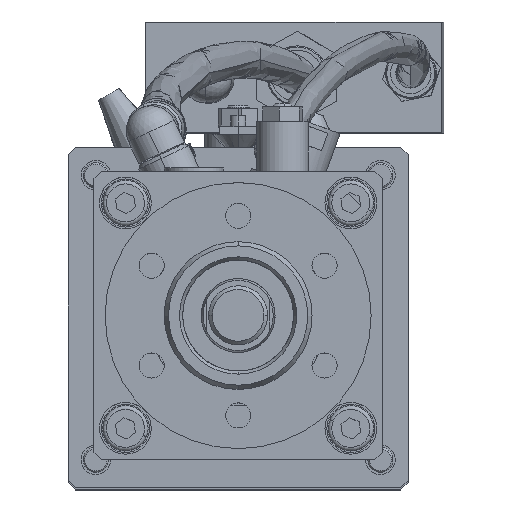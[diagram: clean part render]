
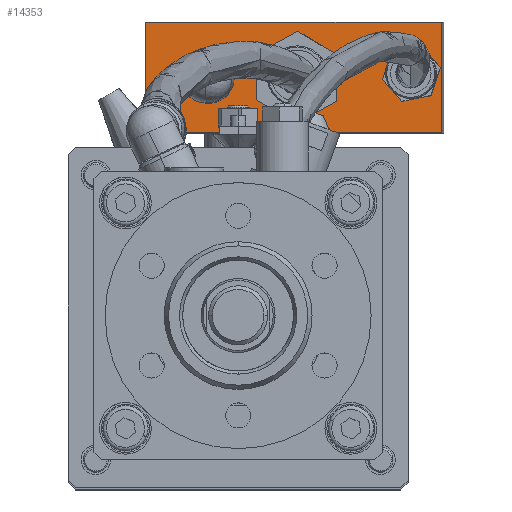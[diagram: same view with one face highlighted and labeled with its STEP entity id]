
A CAD part, top view. The second image highlights one B-rep face of the part: STEP entity #14353.
In plain terms, the highlighted planar face has unit normal (-0.016, 0, 1).
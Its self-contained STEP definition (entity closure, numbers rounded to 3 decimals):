
#42 = EDGE_LOOP ( 'NONE', ( #11251, #520, #3345, #14879 ) ) ;
#140 = VERTEX_POINT ( 'NONE', #7018 ) ;
#243 = CARTESIAN_POINT ( 'NONE',  ( 39.112, 65.027, -115.617 ) ) ;
#314 = CARTESIAN_POINT ( 'NONE',  ( 54.955, 80.5, -115.364 ) ) ;
#358 = LINE ( 'NONE', #5654, #12584 ) ;
#520 = ORIENTED_EDGE ( 'NONE', *, *, #8743, .F. ) ;
#693 = VERTEX_POINT ( 'NONE', #1087 ) ;
#792 = CARTESIAN_POINT ( 'NONE',  ( 49.522, 74.171, -115.451 ) ) ;
#897 = DIRECTION ( 'NONE',  ( -0.018, -1., 0. ) ) ;
#1087 = CARTESIAN_POINT ( 'NONE',  ( 52.235, 60.583, -115.408 ) ) ;
#1105 = EDGE_CURVE ( 'NONE', #5956, #140, #7410, .T. ) ;
#1342 = ORIENTED_EDGE ( 'NONE', *, *, #1105, .F. ) ;
#1462 = ORIENTED_EDGE ( 'NONE', *, *, #14413, .F. ) ;
#1501 = LINE ( 'NONE', #9416, #4575 ) ;
#1548 = LINE ( 'NONE', #243, #3285 ) ;
#1663 = VERTEX_POINT ( 'NONE', #314 ) ;
#1766 = CARTESIAN_POINT ( 'NONE',  ( -8.037, 72.5, -116.37 ) ) ;
#1768 = LINE ( 'NONE', #7234, #5620 ) ;
#1894 = CARTESIAN_POINT ( 'NONE',  ( 26.893, 71.557, -115.812 ) ) ;
#2004 = DIRECTION ( 'NONE',  ( 0.981, 0.196, 0.016 ) ) ;
#2078 = DIRECTION ( 'NONE',  ( 0.018, 1., 0. ) ) ;
#2085 = CARTESIAN_POINT ( 'NONE',  ( 54.955, 80.5, -115.364 ) ) ;
#2153 = DIRECTION ( 'NONE',  ( 0., -1., 0. ) ) ;
#2195 = EDGE_CURVE ( 'NONE', #11071, #1663, #1768, .T. ) ;
#2457 = EDGE_CURVE ( 'NONE', #3306, #12536, #358, .T. ) ;
#2692 = VERTEX_POINT ( 'NONE', #14602 ) ;
#2751 = DIRECTION ( 'NONE',  ( -0.875, -0.485, -0.014 ) ) ;
#2871 = LINE ( 'NONE', #6602, #14894 ) ;
#2895 = LINE ( 'NONE', #8200, #11502 ) ;
#3285 = VECTOR ( 'NONE', #4057, 1000. ) ;
#3306 = VERTEX_POINT ( 'NONE', #12825 ) ;
#3345 = ORIENTED_EDGE ( 'NONE', *, *, #2195, .F. ) ;
#3428 = CARTESIAN_POINT ( 'NONE',  ( 54.955, 50.5, -115.364 ) ) ;
#3452 = EDGE_CURVE ( 'NONE', #140, #3306, #2895, .T. ) ;
#3620 = PLANE ( 'NONE',  #7212 ) ;
#3648 = DIRECTION ( 'NONE',  ( -0.016, 0., 1. ) ) ;
#3800 = VERTEX_POINT ( 'NONE', #792 ) ;
#3829 = CARTESIAN_POINT ( 'NONE',  ( 44.391, 59.016, -115.533 ) ) ;
#3849 = EDGE_CURVE ( 'NONE', #16549, #14902, #15405, .T. ) ;
#3891 = DIRECTION ( 'NONE',  ( 0., -1., 0. ) ) ;
#4057 = DIRECTION ( 'NONE',  ( 0.66, -0.751, 0.011 ) ) ;
#4115 = VERTEX_POINT ( 'NONE', #15467 ) ;
#4140 = FACE_OUTER_BOUND ( 'NONE', #42, .T. ) ;
#4322 = VECTOR ( 'NONE', #10713, 1000. ) ;
#4575 = VECTOR ( 'NONE', #12028, 1000. ) ;
#5275 = CARTESIAN_POINT ( 'NONE',  ( 41.678, 72.604, -115.576 ) ) ;
#5279 = LINE ( 'NONE', #15658, #11109 ) ;
#5355 = EDGE_CURVE ( 'NONE', #12536, #6696, #5977, .T. ) ;
#5449 = FACE_BOUND ( 'NONE', #11680, .T. ) ;
#5581 = CARTESIAN_POINT ( 'NONE',  ( 52.235, 60.583, -115.408 ) ) ;
#5620 = VECTOR ( 'NONE', #6015, 1000. ) ;
#5653 = ORIENTED_EDGE ( 'NONE', *, *, #5355, .F. ) ;
#5654 = CARTESIAN_POINT ( 'NONE',  ( 15.739, 53.002, -115.99 ) ) ;
#5663 = AXIS2_PLACEMENT_3D ( 'NONE', #15574, #3648, #17030 ) ;
#5762 = VECTOR ( 'NONE', #2751, 1000. ) ;
#5897 = CARTESIAN_POINT ( 'NONE',  ( 26.672, 59.059, -115.816 ) ) ;
#5956 = VERTEX_POINT ( 'NONE', #9272 ) ;
#5977 = LINE ( 'NONE', #5897, #6564 ) ;
#6015 = DIRECTION ( 'NONE',  ( 1., 0., 0.016 ) ) ;
#6226 = EDGE_CURVE ( 'NONE', #4115, #15374, #16722, .T. ) ;
#6246 = DIRECTION ( 'NONE',  ( 0., -1., 0. ) ) ;
#6296 = ORIENTED_EDGE ( 'NONE', *, *, #12254, .F. ) ;
#6564 = VECTOR ( 'NONE', #2078, 1000. ) ;
#6602 = CARTESIAN_POINT ( 'NONE',  ( 54.801, 68.16, -115.367 ) ) ;
#6667 = CIRCLE ( 'NONE', #15588, 7. ) ;
#6696 = VERTEX_POINT ( 'NONE', #15417 ) ;
#7018 = CARTESIAN_POINT ( 'NONE',  ( 5.027, 59.443, -116.161 ) ) ;
#7212 = AXIS2_PLACEMENT_3D ( 'NONE', #7282, #8683, #2153 ) ;
#7234 = CARTESIAN_POINT ( 'NONE',  ( 54.955, 80.5, -115.364 ) ) ;
#7282 = CARTESIAN_POINT ( 'NONE',  ( 54.955, 80.5, -115.364 ) ) ;
#7410 = LINE ( 'NONE', #11587, #13106 ) ;
#7735 = LINE ( 'NONE', #11743, #7766 ) ;
#7766 = VECTOR ( 'NONE', #3891, 1000. ) ;
#7808 = CARTESIAN_POINT ( 'NONE',  ( -25.034, 80.5, -116.641 ) ) ;
#8135 = EDGE_CURVE ( 'NONE', #10983, #2692, #1501, .T. ) ;
#8200 = CARTESIAN_POINT ( 'NONE',  ( 5.027, 59.443, -116.161 ) ) ;
#8399 = LINE ( 'NONE', #9699, #5762 ) ;
#8683 = DIRECTION ( 'NONE',  ( 0.016, 0., -1. ) ) ;
#8700 = CARTESIAN_POINT ( 'NONE',  ( 44.391, 59.016, -115.533 ) ) ;
#8743 = EDGE_CURVE ( 'NONE', #1663, #15374, #8957, .T. ) ;
#8834 = EDGE_LOOP ( 'NONE', ( #14035, #11346 ) ) ;
#8957 = LINE ( 'NONE', #2085, #17085 ) ;
#9089 = EDGE_CURVE ( 'NONE', #693, #10083, #13415, .T. ) ;
#9262 = VERTEX_POINT ( 'NONE', #3829 ) ;
#9272 = CARTESIAN_POINT ( 'NONE',  ( 5.249, 71.941, -116.158 ) ) ;
#9386 = EDGE_CURVE ( 'NONE', #10083, #3800, #2871, .T. ) ;
#9416 = CARTESIAN_POINT ( 'NONE',  ( 41.678, 72.604, -115.576 ) ) ;
#9448 = VECTOR ( 'NONE', #15385, 1000. ) ;
#9467 = FACE_BOUND ( 'NONE', #16558, .T. ) ;
#9518 = EDGE_CURVE ( 'NONE', #9262, #693, #16426, .T. ) ;
#9685 = ORIENTED_EDGE ( 'NONE', *, *, #9518, .F. ) ;
#9699 = CARTESIAN_POINT ( 'NONE',  ( 16.182, 77.998, -115.983 ) ) ;
#9894 = LINE ( 'NONE', #1894, #9448 ) ;
#10083 = VERTEX_POINT ( 'NONE', #12674 ) ;
#10138 = DIRECTION ( 'NONE',  ( -0.016, 0., 1. ) ) ;
#10460 = CARTESIAN_POINT ( 'NONE',  ( 16.182, 77.998, -115.983 ) ) ;
#10713 = DIRECTION ( 'NONE',  ( 0.321, 0.947, 0.005 ) ) ;
#10724 = ORIENTED_EDGE ( 'NONE', *, *, #3452, .F. ) ;
#10763 = FACE_BOUND ( 'NONE', #8834, .T. ) ;
#10964 = DIRECTION ( 'NONE',  ( 0.875, 0.485, 0.014 ) ) ;
#10983 = VERTEX_POINT ( 'NONE', #5275 ) ;
#11011 = ORIENTED_EDGE ( 'NONE', *, *, #2457, .F. ) ;
#11052 = CARTESIAN_POINT ( 'NONE',  ( -8.037, 58.5, -116.37 ) ) ;
#11071 = VERTEX_POINT ( 'NONE', #7808 ) ;
#11109 = VECTOR ( 'NONE', #13210, 1000. ) ;
#11251 = ORIENTED_EDGE ( 'NONE', *, *, #6226, .T. ) ;
#11346 = ORIENTED_EDGE ( 'NONE', *, *, #14724, .F. ) ;
#11502 = VECTOR ( 'NONE', #13506, 1000. ) ;
#11587 = CARTESIAN_POINT ( 'NONE',  ( 5.249, 71.941, -116.158 ) ) ;
#11680 = EDGE_LOOP ( 'NONE', ( #15812, #1462, #5653, #11011, #10724, #1342 ) ) ;
#11743 = CARTESIAN_POINT ( 'NONE',  ( -25.034, 80.5, -116.641 ) ) ;
#11904 = ORIENTED_EDGE ( 'NONE', *, *, #9386, .F. ) ;
#12028 = DIRECTION ( 'NONE',  ( -0.321, -0.947, -0.005 ) ) ;
#12254 = EDGE_CURVE ( 'NONE', #2692, #9262, #1548, .T. ) ;
#12447 = ORIENTED_EDGE ( 'NONE', *, *, #8135, .F. ) ;
#12468 = EDGE_CURVE ( 'NONE', #16198, #5956, #8399, .T. ) ;
#12536 = VERTEX_POINT ( 'NONE', #13614 ) ;
#12584 = VECTOR ( 'NONE', #10964, 1000. ) ;
#12674 = CARTESIAN_POINT ( 'NONE',  ( 54.801, 68.16, -115.367 ) ) ;
#12825 = CARTESIAN_POINT ( 'NONE',  ( 15.739, 53.002, -115.99 ) ) ;
#12864 = CARTESIAN_POINT ( 'NONE',  ( 54.955, 50.5, -115.364 ) ) ;
#13106 = VECTOR ( 'NONE', #897, 1000. ) ;
#13210 = DIRECTION ( 'NONE',  ( -0.981, -0.196, -0.016 ) ) ;
#13309 = DIRECTION ( 'NONE',  ( -0.66, 0.751, -0.011 ) ) ;
#13415 = LINE ( 'NONE', #5581, #4322 ) ;
#13506 = DIRECTION ( 'NONE',  ( 0.857, -0.515, 0.014 ) ) ;
#13614 = CARTESIAN_POINT ( 'NONE',  ( 26.672, 59.059, -115.816 ) ) ;
#13788 = VECTOR ( 'NONE', #2004, 1000. ) ;
#14035 = ORIENTED_EDGE ( 'NONE', *, *, #3849, .F. ) ;
#14091 = EDGE_CURVE ( 'NONE', #3800, #10983, #5279, .T. ) ;
#14162 = EDGE_CURVE ( 'NONE', #11071, #4115, #7735, .T. ) ;
#14353 = ADVANCED_FACE ( 'NONE', ( #5449, #10763, #4140, #9467 ), #3620, .F. ) ;
#14413 = EDGE_CURVE ( 'NONE', #6696, #16198, #9894, .T. ) ;
#14520 = VECTOR ( 'NONE', #15261, 1000. ) ;
#14602 = CARTESIAN_POINT ( 'NONE',  ( 39.112, 65.027, -115.617 ) ) ;
#14724 = EDGE_CURVE ( 'NONE', #14902, #16549, #6667, .T. ) ;
#14879 = ORIENTED_EDGE ( 'NONE', *, *, #14162, .T. ) ;
#14894 = VECTOR ( 'NONE', #13309, 1000. ) ;
#14902 = VERTEX_POINT ( 'NONE', #1766 ) ;
#15151 = ORIENTED_EDGE ( 'NONE', *, *, #9089, .F. ) ;
#15232 = ORIENTED_EDGE ( 'NONE', *, *, #14091, .F. ) ;
#15261 = DIRECTION ( 'NONE',  ( 1., 0., 0.016 ) ) ;
#15374 = VERTEX_POINT ( 'NONE', #12864 ) ;
#15385 = DIRECTION ( 'NONE',  ( -0.857, 0.515, -0.014 ) ) ;
#15405 = CIRCLE ( 'NONE', #5663, 7. ) ;
#15417 = CARTESIAN_POINT ( 'NONE',  ( 26.893, 71.557, -115.812 ) ) ;
#15445 = DIRECTION ( 'NONE',  ( 0., -1., 0. ) ) ;
#15467 = CARTESIAN_POINT ( 'NONE',  ( -25.034, 50.5, -116.641 ) ) ;
#15574 = CARTESIAN_POINT ( 'NONE',  ( -8.037, 65.5, -116.37 ) ) ;
#15588 = AXIS2_PLACEMENT_3D ( 'NONE', #16733, #10138, #15445 ) ;
#15658 = CARTESIAN_POINT ( 'NONE',  ( 49.522, 74.171, -115.451 ) ) ;
#15812 = ORIENTED_EDGE ( 'NONE', *, *, #12468, .F. ) ;
#16198 = VERTEX_POINT ( 'NONE', #10460 ) ;
#16426 = LINE ( 'NONE', #8700, #13788 ) ;
#16549 = VERTEX_POINT ( 'NONE', #11052 ) ;
#16558 = EDGE_LOOP ( 'NONE', ( #11904, #15151, #9685, #6296, #12447, #15232 ) ) ;
#16722 = LINE ( 'NONE', #3428, #14520 ) ;
#16733 = CARTESIAN_POINT ( 'NONE',  ( -8.037, 65.5, -116.37 ) ) ;
#17030 = DIRECTION ( 'NONE',  ( 0., -1., 0. ) ) ;
#17085 = VECTOR ( 'NONE', #6246, 1000. ) ;
